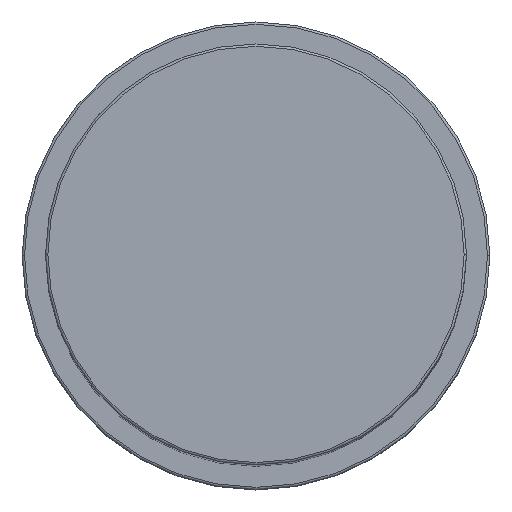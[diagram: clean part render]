
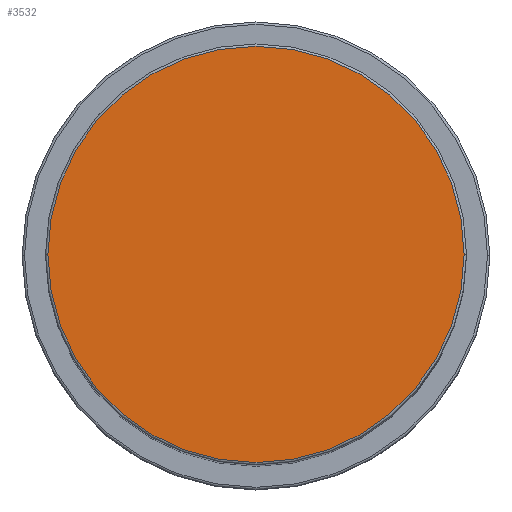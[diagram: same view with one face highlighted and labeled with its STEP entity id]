
A CAD part, top view. The second image highlights one B-rep face of the part: STEP entity #3532.
In plain terms, the highlighted planar face has unit normal (0, 0, 1).
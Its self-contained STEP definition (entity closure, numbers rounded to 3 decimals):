
#95 = DIRECTION ( 'NONE',  ( 0., 0., 1. ) ) ;
#141 = VERTEX_POINT ( 'NONE', #4662 ) ;
#1272 = PLANE ( 'NONE',  #5889 ) ;
#1415 = AXIS2_PLACEMENT_3D ( 'NONE', #3471, #95, #7298 ) ;
#1544 = ORIENTED_EDGE ( 'NONE', *, *, #4738, .T. ) ;
#1549 = VERTEX_POINT ( 'NONE', #2450 ) ;
#2414 = DIRECTION ( 'NONE',  ( 0., 0., 1. ) ) ;
#2450 = CARTESIAN_POINT ( 'NONE',  ( -44.5, 0., 194. ) ) ;
#2589 = CIRCLE ( 'NONE', #5929, 44.5 ) ;
#2859 = FACE_OUTER_BOUND ( 'NONE', #5340, .T. ) ;
#2872 = DIRECTION ( 'NONE',  ( 0., 0., 1. ) ) ;
#3416 = DIRECTION ( 'NONE',  ( 1., 0., 0. ) ) ;
#3471 = CARTESIAN_POINT ( 'NONE',  ( 0., 0., 194. ) ) ;
#3504 = DIRECTION ( 'NONE',  ( 1., 0., 0. ) ) ;
#3532 = ADVANCED_FACE ( 'NONE', ( #2859 ), #1272, .T. ) ;
#4035 = ORIENTED_EDGE ( 'NONE', *, *, #7046, .T. ) ;
#4150 = CARTESIAN_POINT ( 'NONE',  ( 0., 0., 194. ) ) ;
#4662 = CARTESIAN_POINT ( 'NONE',  ( 44.5, 0., 194. ) ) ;
#4738 = EDGE_CURVE ( 'NONE', #1549, #141, #2589, .T. ) ;
#5340 = EDGE_LOOP ( 'NONE', ( #4035, #1544 ) ) ;
#5889 = AXIS2_PLACEMENT_3D ( 'NONE', #4150, #2414, #3504 ) ;
#5929 = AXIS2_PLACEMENT_3D ( 'NONE', #6240, #2872, #3416 ) ;
#6240 = CARTESIAN_POINT ( 'NONE',  ( 0., 0., 194. ) ) ;
#6369 = CIRCLE ( 'NONE', #1415, 44.5 ) ;
#7046 = EDGE_CURVE ( 'NONE', #141, #1549, #6369, .T. ) ;
#7298 = DIRECTION ( 'NONE',  ( 1., 0., 0. ) ) ;
